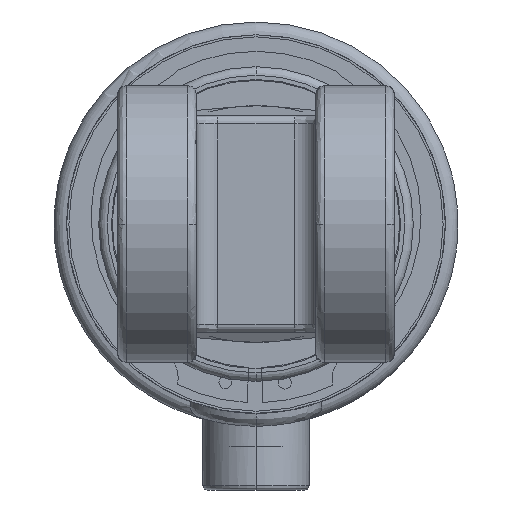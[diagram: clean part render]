
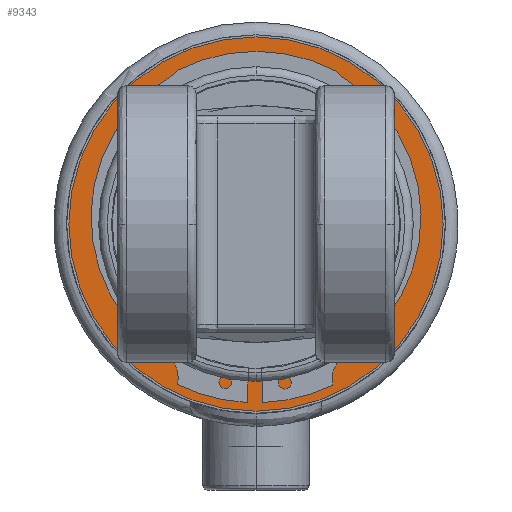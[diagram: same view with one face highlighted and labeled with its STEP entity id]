
A CAD part, left-side view. The second image highlights one B-rep face of the part: STEP entity #9343.
In plain terms, the highlighted planar face has unit normal (-1, 0, 0).
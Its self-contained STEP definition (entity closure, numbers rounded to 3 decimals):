
#454 = EDGE_CURVE ( 'NONE', #3671, #5359, #11854, .T. ) ;
#770 = ORIENTED_EDGE ( 'NONE', *, *, #8204, .F. ) ;
#778 = EDGE_CURVE ( 'NONE', #5359, #3671, #10150, .T. ) ;
#779 = ORIENTED_EDGE ( 'NONE', *, *, #454, .T. ) ;
#1886 = DIRECTION ( 'NONE',  ( -1., 0., 0. ) ) ;
#2083 = DIRECTION ( 'NONE',  ( 0., 0., 1. ) ) ;
#2172 = DIRECTION ( 'NONE',  ( -1., 0., 0. ) ) ;
#2245 = CARTESIAN_POINT ( 'NONE',  ( -723.005, 0., -43.95 ) ) ;
#2255 = CARTESIAN_POINT ( 'NONE',  ( -723.005, 0., 0. ) ) ;
#2431 = AXIS2_PLACEMENT_3D ( 'NONE', #7509, #1886, #8384 ) ;
#2853 = CIRCLE ( 'NONE', #2431, 36.95 ) ;
#3484 = AXIS2_PLACEMENT_3D ( 'NONE', #9680, #4273, #10566 ) ;
#3670 = ORIENTED_EDGE ( 'NONE', *, *, #3895, .F. ) ;
#3671 = VERTEX_POINT ( 'NONE', #5896 ) ;
#3800 = AXIS2_PLACEMENT_3D ( 'NONE', #2245, #10451, #5132 ) ;
#3895 = EDGE_CURVE ( 'NONE', #4908, #7169, #2853, .T. ) ;
#4273 = DIRECTION ( 'NONE',  ( -1., 0., 0. ) ) ;
#4331 = CIRCLE ( 'NONE', #3484, 36.95 ) ;
#4908 = VERTEX_POINT ( 'NONE', #7330 ) ;
#5132 = DIRECTION ( 'NONE',  ( 0., 0., 1. ) ) ;
#5359 = VERTEX_POINT ( 'NONE', #8556 ) ;
#5459 = FACE_OUTER_BOUND ( 'NONE', #5959, .T. ) ;
#5546 = CARTESIAN_POINT ( 'NONE',  ( -723.005, 0., 36.95 ) ) ;
#5896 = CARTESIAN_POINT ( 'NONE',  ( -723.005, 0., 43.95 ) ) ;
#5959 = EDGE_LOOP ( 'NONE', ( #779, #7025 ) ) ;
#7025 = ORIENTED_EDGE ( 'NONE', *, *, #778, .T. ) ;
#7169 = VERTEX_POINT ( 'NONE', #5546 ) ;
#7249 = EDGE_LOOP ( 'NONE', ( #770, #3670 ) ) ;
#7330 = CARTESIAN_POINT ( 'NONE',  ( -723.005, 0., -36.95 ) ) ;
#7509 = CARTESIAN_POINT ( 'NONE',  ( -723.005, 0., 0. ) ) ;
#7601 = FACE_BOUND ( 'NONE', #7249, .T. ) ;
#7895 = AXIS2_PLACEMENT_3D ( 'NONE', #8927, #8912, #8873 ) ;
#8204 = EDGE_CURVE ( 'NONE', #7169, #4908, #4331, .T. ) ;
#8250 = AXIS2_PLACEMENT_3D ( 'NONE', #2255, #2172, #2083 ) ;
#8384 = DIRECTION ( 'NONE',  ( 0., 0., 1. ) ) ;
#8556 = CARTESIAN_POINT ( 'NONE',  ( -723.005, 0., -43.95 ) ) ;
#8706 = PLANE ( 'NONE',  #3800 ) ;
#8873 = DIRECTION ( 'NONE',  ( 0., 0., 1. ) ) ;
#8912 = DIRECTION ( 'NONE',  ( -1., 0., 0. ) ) ;
#8927 = CARTESIAN_POINT ( 'NONE',  ( -723.005, 0., 0. ) ) ;
#9343 = ADVANCED_FACE ( 'NONE', ( #5459, #7601 ), #8706, .T. ) ;
#9680 = CARTESIAN_POINT ( 'NONE',  ( -723.005, 0., 0. ) ) ;
#10150 = CIRCLE ( 'NONE', #8250, 43.95 ) ;
#10451 = DIRECTION ( 'NONE',  ( -1., 0., 0. ) ) ;
#10566 = DIRECTION ( 'NONE',  ( 0., 0., 1. ) ) ;
#11854 = CIRCLE ( 'NONE', #7895, 43.95 ) ;
